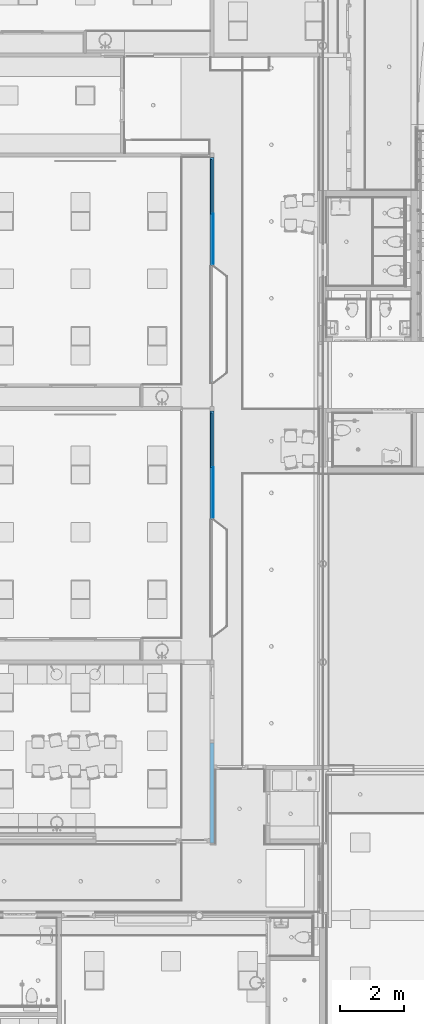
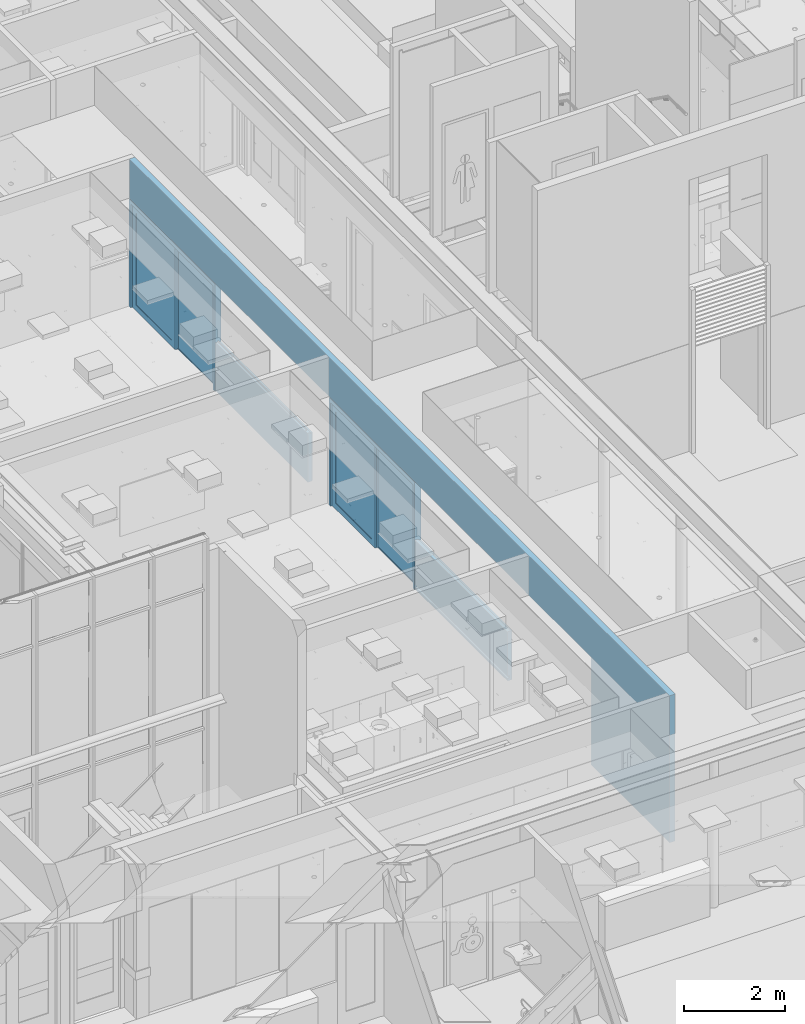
# One storey, part 47 of 347: 8 building element parts, 12 openings, 2 elements without a shape of their own, plus 1 element that does not belong to this part.
"""IFC2X3 building model written with IfcOpenShell, lengths in millimetres."""

from ifc_helpers import new_model, entity, si_unit, converted_unit, derived_unit, money_unit, direction, frame, origin_with_axes, place, context, subcontext, project, spatial, open_shell, faceted_brep, surface_model, source, transform, mapped, material, type_object, element, fill, aggregate, save


model = new_model("IFC2X3")

# Units and contexts
model_context = context("Model", 3, precision=0.01, world=origin_with_axes(), true_north=direction((0.0, 1.0)))
plan_context = context("Plan", 3, precision=0.01, world=origin_with_axes(), true_north=direction((0.0, 1.0)))
body_context = subcontext(model_context, "Body", "Model", "MODEL_VIEW")
ifc_project = project(units=[si_unit("LENGTHUNIT", "METRE", prefix="MILLI"), si_unit("AREAUNIT", "SQUARE_METRE"), si_unit("VOLUMEUNIT", "CUBIC_METRE"), converted_unit("PLANEANGLEUNIT", "DEGREE", entity("IfcPlaneAngleMeasure", 0.0174532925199), si_unit("PLANEANGLEUNIT", "RADIAN"), dimensions=[0, 0, 0, 0, 0, 0, 0]), money_unit("EUR"), converted_unit("TIMEUNIT", "Year", entity("IfcTimeMeasure", 31556926.0), si_unit("TIMEUNIT", "SECOND"), dimensions=[0, 0, 1, 0, 0, 0, 0]), si_unit("MASSUNIT", "GRAM", prefix="KILO"), si_unit("THERMODYNAMICTEMPERATUREUNIT", "DEGREE_CELSIUS"), si_unit("LUMINOUSINTENSITYUNIT", "LUMEN"), si_unit("ENERGYUNIT", "JOULE", prefix="MEGA"), derived_unit("THERMALCONDUCTANCEUNIT", [(si_unit("POWERUNIT", "WATT"), 1), (si_unit("LENGTHUNIT", "METRE"), -1), (si_unit("THERMODYNAMICTEMPERATUREUNIT", "KELVIN"), -1)]), derived_unit("SPECIFICHEATCAPACITYUNIT", [(si_unit("ENERGYUNIT", "JOULE"), 1), (si_unit("MASSUNIT", "GRAM", prefix="KILO"), -1), (si_unit("THERMODYNAMICTEMPERATUREUNIT", "KELVIN"), -1)]), derived_unit("MASSDENSITYUNIT", [(si_unit("MASSUNIT", "GRAM", prefix="KILO"), 1), (si_unit("VOLUMEUNIT", "CUBIC_METRE"), -1)])], contexts=[model_context, plan_context])

# Site, building, storey
site_placement = place(None, origin_with_axes())
site = spatial("IfcSite", under=ifc_project, at=site_placement, Name="Site", CompositionType="ELEMENT")
building_placement = place(site_placement, origin_with_axes())
building = spatial("IfcBuilding", under=site, at=building_placement, Name="Naam gebouw", CompositionType="ELEMENT")
storey_placement = place(building_placement, origin_with_axes())
storey = spatial("IfcBuildingStorey", under=building, at=storey_placement, Name="begane grond", CompositionType="ELEMENT", Elevation=0.0)

# Wall, openings, doors, building element parts
ifc_material_1 = material(Name="ALG - LICHTE SCHEIDINGSWAND")
wall_type = type_object("IfcWallType", Name="ALG LSW 125 125", PredefinedType="NOTDEFINED")
wall_placement = place(storey_placement, frame((32075.0, 14400.0, 0.0), z_axis=(0.0, 0.0, 1.0), x_axis=(0.0, 1.0, 0.0)))
wall = element("IfcWall", 1, at=wall_placement, inside=storey, type_object=wall_type, material=ifc_material_1, Name="22_GF 125 ECO DGS/2.75.2A", context=body_context, shape_type="Brep", body=[
    faceted_brep([(10105.5, -88.9482869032, 1178.0), (10077.7299648, -125.0, 1178.0), (10077.7299648, -125.0, 0.0), (10105.5, -88.9482869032, 0.0), (6443.5, -88.9506197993, 1178.0), (6471.27110157, -125.0, 1178.0), (10105.5, -72.5, 1178.0), (6465.77078348, -72.1991566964, 1178.0), (6465.95055533, -72.4815328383, 1178.0), (6465.5, -72.4815328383, 1178.0), (6465.5, -72.1991343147, 1178.0), (6443.5, -72.1973158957, 1178.0), (6471.27110157, -125.0, 0.0), (6455.5, -104.527695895, 0.0), (6455.5, -11.9999999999, 0.0), (10105.5, -11.9999999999, 0.0), (6465.5, -71.7738242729, 0.0), (6465.5, -72.4815328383, 0.0), (6465.95055533, -72.4815328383, 0.0), (10105.5, 0.0, 1175.0), (10105.5, 0.0, 1200.0), (10105.5, -72.5, 1200.0), (10105.5, -11.9999999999, 60.0), (10105.5, -52.5, 60.0), (10105.5, -52.5, 120.0), (10105.5, -11.9999999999, 120.0), (10105.5, -11.9999999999, 1175.0), (6443.5, -88.9506197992, 1175.0), (6455.5, -104.527695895, 1175.0), (6443.5, -72.1973158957, 1200.0), (6465.5, -71.7738242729, 1178.0), (6443.5, 0.0, 1200.0), (6443.5, 0.0, 1175.0), (6455.5, -11.9999999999, 1175.0), (6455.5, -11.9999999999, 120.0), (6455.5, -52.5, 120.0), (6455.5, -52.5, 60.0), (6455.5, -11.9999999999, 60.0)], [[[0, 1, 2, 3]], [[4, 5, 1, 0, 6, 7, 8, 9, 10, 11]], [[2, 1, 5, 12]], [[12, 13, 14, 15, 3, 2], [16, 17, 18]], [[19, 20, 21, 6, 0, 3, 15, 22, 23, 24, 25, 26]], [[27, 28, 13, 12, 5, 4]], [[11, 10, 7, 6, 21, 29]], [[30, 16, 18, 8, 7]], [[9, 8, 18, 17]], [[17, 16, 30, 10, 9]], [[4, 11, 29, 31, 32, 27]], [[33, 34, 35, 36, 37, 14, 13, 28]], [[15, 14, 37, 22]], [[19, 32, 31, 20]], [[20, 31, 29, 21]], [[22, 37, 36, 23]], [[23, 36, 35, 24]], [[24, 35, 34, 25]], [[25, 34, 33, 26]], [[28, 27, 32, 19, 26, 33]], [[7, 10, 30]]]),
    faceted_brep([(18002.7299648, -125.0, 0.0), (18030.5, -88.9482869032, 0.0), (18030.5, -88.9482869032, 1178.0), (18002.7299648, -125.0, 1178.0), (14396.2711016, -125.0, 0.0), (14380.5, -104.527695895, 0.0), (14380.5, -11.9999999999, 0.0), (18030.5, -11.9999999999, 0.0), (14390.9505553, -72.4815328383, 0.0), (14390.5, -71.773824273, 0.0), (14390.5, -72.4815328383, 0.0), (18030.5, -11.9999999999, 1175.0), (18030.5, -52.5, 1175.0), (18030.5, -52.5, 1200.0), (18030.5, -72.5, 1200.0), (18030.5, -72.5, 1178.0), (14368.5, -72.5, 1178.0), (14368.5, -88.9506197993, 1178.0), (14396.2711016, -125.0, 1178.0), (14368.5, -88.9506197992, 1175.0), (14380.5, -104.527695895, 1175.0), (14380.5, -11.9999999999, 1175.0), (14470.5, -11.9999999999, 1175.0), (14390.9505553, -72.4815328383, 1178.0), (14390.5, -71.773824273, 1178.0), (14390.5, -72.4815328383, 1178.0), (14470.5, -52.5, 1175.0), (14470.5, -52.5, 1200.0), (14470.5, 0.0, 1200.0), (14368.5, 0.0, 1200.0), (14368.5, -72.5, 1200.0), (14368.5, 0.0, 1175.0), (14470.5, 0.0, 1175.0)], [[[0, 1, 2, 3]], [[1, 0, 4, 5, 6, 7], [8, 9, 10]], [[7, 11, 12, 13, 14, 15, 2, 1]], [[15, 16, 17, 18, 3, 2]], [[3, 18, 4, 0]], [[5, 4, 18, 17, 19, 20]], [[6, 5, 20, 21]], [[11, 7, 6, 21, 22]], [[8, 23, 24, 9]], [[9, 24, 25, 10]], [[10, 25, 23, 8]], [[26, 12, 11, 22]], [[27, 13, 12, 26]], [[13, 27, 28, 29, 30, 14]], [[16, 15, 14, 30]], [[30, 29, 31, 19, 17, 16]], [[31, 32, 22, 21, 20, 19]], [[25, 24, 23]], [[22, 32, 28, 27, 26]], [[29, 28, 32, 31]]]),
    faceted_brep([(0.0, -125.0, 0.0), (3125.0, -125.0, 0.0), (3125.0, -125.0, 2600.0), (5712.5, -125.0, 2600.0), (5712.5, -125.0, 2612.0), (21437.5, -125.0, 2612.0), (21437.5, -125.0, 3560.0), (0.0, -125.0, 3560.0), (0.0, 0.0, 0.0), (3125.0, 0.0, 0.0), (3125.0, 0.0, 2600.0), (5712.5, 0.0, 2600.0), (5712.5, 0.0, 2612.0), (21437.5, 0.0, 2612.0), (21437.5, 0.0, 3560.0), (0.0, 0.0, 3560.0)], [[[0, 1, 2, 3, 4, 5, 6, 7]], [[8, 9, 1, 0]], [[10, 2, 1, 9]], [[3, 2, 10, 11]], [[3, 11, 12, 4]], [[12, 13, 5, 4]], [[6, 5, 13, 14]], [[7, 6, 14, 15]], [[8, 0, 7, 15]], [[11, 10, 9, 8, 15, 14, 13, 12]]]),
])
opening_1_placement = place(wall_placement, frame((21500.0, 0.0, 0.0), z_axis=(0.0, 0.0, 1.0), x_axis=(1.0, 0.0, 0.0)))
element("IfcOpeningElement", 2, at=opening_1_placement, cuts=wall, Name="32_-", context=body_context, shape_type="Brep", body=[
    faceted_brep([(-69.5, -132.0, 0.0), (-69.5, -132.0, 2600.0), (-69.5, 7.00000000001, 2600.0), (-69.5, 7.00000000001, 0.0), (69.5, -132.0, 0.0), (69.5, -132.0, 2600.0)], [[[0, 1, 2, 3]], [[1, 0, 4, 5]], [[1, 5, 2]], [[5, 4, 3, 2]], [[0, 3, 4]]]),
])
opening_2_placement = place(wall_placement, frame((17115.0, 0.0, 1200.0), z_axis=(0.0, 0.0, 1.0), x_axis=(1.0, 0.0, 0.0)))
element("IfcOpeningElement", 3, at=opening_2_placement, cuts=wall, Name="31_11.01", context=body_context, shape_type="Brep", body=[
    faceted_brep([(915.5, -72.5, 1400.0), (915.5, -72.5, 0.0), (915.5, 125.0, 0.0), (915.5, 125.0, 1400.0), (-915.5, -72.5, 1400.0), (-915.5, -72.5, 0.0), (-915.5, 125.0, 0.0), (-915.5, 125.0, 1400.0)], [[[0, 1, 2, 3]], [[0, 4, 5, 1]], [[1, 5, 6, 2]], [[3, 2, 6, 7]], [[4, 0, 3, 7]], [[5, 4, 7, 6]]]),
    faceted_brep([(915.5, -72.5, 0.0), (915.5, -72.5, 1400.0), (915.5, -250.0, 1400.0), (915.5, -250.0, 0.0), (-915.5, -72.5, 0.0), (-915.5, -72.5, 1400.0), (-915.5, -250.0, 1400.0), (-915.5, -250.0, 0.0)], [[[0, 1, 2, 3]], [[0, 4, 5, 1]], [[1, 5, 6, 2]], [[3, 2, 6, 7]], [[4, 0, 3, 7]], [[5, 4, 7, 6]]]),
])
opening_3_placement = place(wall_placement, frame((14006.5, 0.0, 0.0), z_axis=(0.0, 0.0, 1.0), x_axis=(1.0, 0.0, 0.0)))
element("IfcOpeningElement", 4, at=opening_3_placement, cuts=wall, Name="32_10.01", context=body_context, shape_type="Brep", body=[
    faceted_brep([(362.0, -72.5, 2600.0), (362.0, -72.5, 0.0), (362.0, 125.0, 0.0), (362.0, 125.0, 2600.0), (-362.0, -72.5, 2600.0), (-362.0, -72.5, 0.0), (-362.0, 125.0, 0.0), (-362.0, 125.0, 2600.0)], [[[0, 1, 2, 3]], [[0, 4, 5, 1]], [[1, 5, 6, 2]], [[3, 2, 6, 7]], [[4, 0, 3, 7]], [[5, 4, 7, 6]]]),
    faceted_brep([(362.0, -72.5, 0.0), (362.0, -72.5, 2600.0), (362.0, -250.0, 2600.0), (362.0, -250.0, 0.0), (-362.0, -72.5, 0.0), (-362.0, -72.5, 2600.0), (-362.0, -250.0, 2600.0), (-362.0, -250.0, 0.0)], [[[0, 1, 2, 3]], [[0, 4, 5, 1]], [[1, 5, 6, 2]], [[3, 2, 6, 7]], [[4, 0, 3, 7]], [[5, 4, 7, 6]]]),
])
opening_4_placement = place(wall_placement, frame((13575.0, 0.0, 0.0), z_axis=(0.0, 0.0, 1.0), x_axis=(1.0, 0.0, 0.0)))
element("IfcOpeningElement", 5, at=opening_4_placement, cuts=wall, Name="32_-", context=body_context, shape_type="Brep", body=[
    faceted_brep([(69.5, -132.0, 2600.0), (69.5, -132.0, 0.0), (69.5, 132.0, 0.0), (69.5, 132.0, 2600.0), (-69.5, -132.0, 2600.0), (-69.5, -132.0, 0.0), (-69.5, 132.0, 0.0), (-69.5, 132.0, 2600.0)], [[[0, 1, 2, 3]], [[0, 4, 5, 1]], [[1, 5, 6, 2]], [[3, 2, 6, 7]], [[4, 0, 3, 7]], [[5, 4, 7, 6]]]),
])
opening_5_placement = place(wall_placement, frame((6081.5, 0.0, 0.0), z_axis=(0.0, 0.0, 1.0), x_axis=(1.0, 0.0, 0.0)))
element("IfcOpeningElement", 6, at=opening_5_placement, cuts=wall, Name="32_10.01", context=body_context, shape_type="Brep", body=[
    faceted_brep([(362.0, -72.5, 2600.0), (362.0, -72.5, 0.0), (362.0, 125.0, 0.0), (362.0, 125.0, 2600.0), (-362.0, -72.5, 2600.0), (-362.0, -72.5, 0.0), (-362.0, 125.0, 0.0), (-362.0, 125.0, 2600.0)], [[[0, 1, 2, 3]], [[0, 4, 5, 1]], [[1, 5, 6, 2]], [[3, 2, 6, 7]], [[4, 0, 3, 7]], [[5, 4, 7, 6]]]),
    faceted_brep([(362.0, -72.5, 0.0), (362.0, -72.5, 2600.0), (362.0, -250.0, 2600.0), (362.0, -250.0, 0.0), (-362.0, -72.5, 0.0), (-362.0, -72.5, 2600.0), (-362.0, -250.0, 2600.0), (-362.0, -250.0, 0.0)], [[[0, 1, 2, 3]], [[0, 4, 5, 1]], [[1, 5, 6, 2]], [[3, 2, 6, 7]], [[4, 0, 3, 7]], [[5, 4, 7, 6]]]),
])
opening_6_placement = place(wall_placement, frame((9190.0, 0.0, 1200.0), z_axis=(0.0, 0.0, 1.0), x_axis=(1.0, 0.0, 0.0)))
element("IfcOpeningElement", 7, at=opening_6_placement, cuts=wall, Name="31_11.01", context=body_context, shape_type="Brep", body=[
    faceted_brep([(915.5, -72.5, 1400.0), (915.5, -72.5, 0.0), (915.5, 125.0, 0.0), (915.5, 125.0, 1400.0), (-915.5, -72.5, 1400.0), (-915.5, -72.5, 0.0), (-915.5, 125.0, 0.0), (-915.5, 125.0, 1400.0)], [[[0, 1, 2, 3]], [[0, 4, 5, 1]], [[1, 5, 6, 2]], [[3, 2, 6, 7]], [[4, 0, 3, 7]], [[5, 4, 7, 6]]]),
    faceted_brep([(915.5, -72.5, 0.0), (915.5, -72.5, 1400.0), (915.5, -250.0, 1400.0), (915.5, -250.0, 0.0), (-915.5, -72.5, 0.0), (-915.5, -72.5, 1400.0), (-915.5, -250.0, 1400.0), (-915.5, -250.0, 0.0)], [[[0, 1, 2, 3]], [[0, 4, 5, 1]], [[1, 5, 6, 2]], [[3, 2, 6, 7]], [[4, 0, 3, 7]], [[5, 4, 7, 6]]]),
])
opening_7_placement = place(wall_placement, frame((5650.0, 0.0, 0.0), z_axis=(0.0, 0.0, 1.0), x_axis=(1.0, 0.0, 0.0)))
element("IfcOpeningElement", 8, at=opening_7_placement, cuts=wall, Name="32_-", context=body_context, shape_type="Brep", body=[
    faceted_brep([(69.5, -132.0, 2600.0), (69.5, -132.0, 0.0), (69.5, 132.0, 0.0), (69.5, 132.0, 2600.0), (-69.5, -132.0, 2600.0), (-69.5, -132.0, 0.0), (-69.5, 132.0, 0.0), (-69.5, 132.0, 2600.0)], [[[0, 1, 2, 3]], [[0, 4, 5, 1]], [[1, 5, 6, 2]], [[3, 2, 6, 7]], [[4, 0, 3, 7]], [[5, 4, 7, 6]]]),
])
opening_8_placement = place(wall_placement, frame((15284.0, 0.0, 1200.0), z_axis=(0.0, 0.0, 1.0), x_axis=(1.0, 0.0, 0.0)))
element("IfcOpeningElement", 9, at=opening_8_placement, cuts=wall, Name="31_11.01", context=body_context, shape_type="Brep", body=[
    faceted_brep([(915.5, -72.5, 1400.0), (915.5, -72.5, 0.0), (915.5, 125.0, 0.0), (915.5, 125.0, 1400.0), (-915.5, -72.5, 1400.0), (-915.5, -72.5, 0.0), (-915.5, 125.0, 0.0), (-915.5, 125.0, 1400.0)], [[[0, 1, 2, 3]], [[0, 4, 5, 1]], [[1, 5, 6, 2]], [[3, 2, 6, 7]], [[4, 0, 3, 7]], [[5, 4, 7, 6]]]),
    faceted_brep([(915.5, -72.5, 0.0), (915.5, -72.5, 1400.0), (915.5, -250.0, 1400.0), (915.5, -250.0, 0.0), (-915.5, -72.5, 0.0), (-915.5, -72.5, 1400.0), (-915.5, -250.0, 1400.0), (-915.5, -250.0, 0.0)], [[[0, 1, 2, 3]], [[0, 4, 5, 1]], [[1, 5, 6, 2]], [[3, 2, 6, 7]], [[4, 0, 3, 7]], [[5, 4, 7, 6]]]),
])
opening_9_placement = place(wall_placement, frame((7359.0, 0.0, 1200.0), z_axis=(0.0, 0.0, 1.0), x_axis=(1.0, 0.0, 0.0)))
element("IfcOpeningElement", 10, at=opening_9_placement, cuts=wall, Name="31_11.01", context=body_context, shape_type="Brep", body=[
    faceted_brep([(915.5, -72.5, 1400.0), (915.5, -72.5, 0.0), (915.5, 125.0, 0.0), (915.5, 125.0, 1400.0), (-915.5, -72.5, 1400.0), (-915.5, -72.5, 0.0), (-915.5, 125.0, 0.0), (-915.5, 125.0, 1400.0)], [[[0, 1, 2, 3]], [[0, 4, 5, 1]], [[1, 5, 6, 2]], [[3, 2, 6, 7]], [[4, 0, 3, 7]], [[5, 4, 7, 6]]]),
    faceted_brep([(915.5, -72.5, 0.0), (915.5, -72.5, 1400.0), (915.5, -250.0, 1400.0), (915.5, -250.0, 0.0), (-915.5, -72.5, 0.0), (-915.5, -72.5, 1400.0), (-915.5, -250.0, 1400.0), (-915.5, -250.0, 0.0)], [[[0, 1, 2, 3]], [[0, 4, 5, 1]], [[1, 5, 6, 2]], [[3, 2, 6, 7]], [[4, 0, 3, 7]], [[5, 4, 7, 6]]]),
])
opening_10_placement = place(wall_placement, frame((19730.5, 0.0, 0.0), z_axis=(0.0, 0.0, 1.0), x_axis=(1.0, 0.0, 0.0)))
opening_10 = element("IfcOpeningElement", 11, at=opening_10_placement, cuts=wall, Name="32_06.01", context=body_context, shape_type="Brep", body=[
    faceted_brep([(1700.0, -132.0, 2599.99996583), (1700.0, -132.0, 0.0), (1700.0, 132.0, 0.0), (1700.0, 132.0, 2599.99996583), (-1700.0, -132.0, 2599.99996583), (-1700.0, -132.0, 0.0), (-1700.0, 132.0, 0.0), (-1700.0, 132.0, 2599.99996583)], [[[0, 1, 2, 3]], [[0, 4, 5, 1]], [[1, 5, 6, 2]], [[3, 2, 6, 7]], [[4, 0, 3, 7]], [[5, 4, 7, 6]]]),
])
opening_11_placement = place(wall_placement, frame((11805.5, 0.0, 0.0), z_axis=(0.0, 0.0, 1.0), x_axis=(1.0, 0.0, 0.0)))
opening_11 = element("IfcOpeningElement", 12, at=opening_11_placement, cuts=wall, Name="32_06.01", context=body_context, shape_type="Brep", body=[
    faceted_brep([(1700.0, -132.0, 2599.99996583), (1700.0, -132.0, 0.0), (1700.0, 132.0, 0.0), (1700.0, 132.0, 2599.99996583), (-1700.0, -132.0, 2599.99996583), (-1700.0, -132.0, 0.0), (-1700.0, 132.0, 0.0), (-1700.0, 132.0, 2599.99996583)], [[[0, 1, 2, 3]], [[0, 4, 5, 1]], [[1, 5, 6, 2]], [[3, 2, 6, 7]], [[4, 0, 3, 7]], [[5, 4, 7, 6]]]),
])
opening_12_placement = place(wall_placement, frame((4352.75, 0.0, 0.0), z_axis=(0.0, 0.0, 1.0), x_axis=(1.0, 0.0, 0.0)))
element("IfcOpeningElement", 13, at=opening_12_placement, cuts=wall, Name="32_04.06", context=body_context, shape_type="Brep", body=[
    faceted_brep([(1227.75, -125.0, 2600.0), (1227.75, -125.0, 0.0), (1227.75, 257.0, 0.0), (1227.75, 257.0, 2600.0), (-1227.75, -125.0, 2600.0), (-1227.75, -125.0, 0.0), (-1227.75, 257.0, 0.0), (-1227.75, 257.0, 2600.0)], [[[0, 1, 2, 3]], [[0, 4, 5, 1]], [[1, 5, 6, 2]], [[3, 2, 6, 7]], [[4, 0, 3, 7]], [[5, 4, 7, 6]]]),
])
door_style = type_object("IfcDoorStyle", Name="32 schuifdeurkozijn 3400 KRAR", ConstructionType="NOTDEFINED", OperationType="NOTDEFINED", ParameterTakesPrecedence=False, Sizeable=False)
door_1_placement = place(opening_10_placement, frame((-1700.0, 0.0, 0.0), z_axis=(0.0, 0.0, 1.0), x_axis=(1.0, 0.0, 0.0)))
door_1 = element("IfcDoor", 14, at=door_1_placement, inside=storey, type_object=door_style, Name="32_06.01", ObjectType="DOOR", OverallHeight=2600.0, OverallWidth=3400.0)
fill(opening_10, door_1)
ifc_material_2 = material(Name="32 Hout binnenkozijn oregon pine")
shared_shape_1 = source(origin_with_axes(), body_context, "Body", "Brep", [
    faceted_brep([(-1610.00000001, 16.9999998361, 24.9999996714), (-1610.00000001, 16.9999777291, 2509.99999544), (-1610.00000001, 3.28331931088e-07, 2510.00000171), (-1610.00000001, 0.0, 0.0), (-1610.00000001, 16.9999998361, 0.0), (-1610.00000001, 41.9999998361, 24.9999996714), (-1610.00000001, 41.9999830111, 2509.99999711), (-1626.99999985, 16.9999777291, 2509.99999544), (-1699.99999792, 16.9999783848, 2509.99999501), (-1699.99999792, 3.05199976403e-07, 2510.00000171), (-1700.0, 0.0, 0.0), (-1610.00000001, 41.9999998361, 0.0), (-1626.99999989, 41.9999998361, 0.0), (-1626.99999985, 16.9999998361, 0.0), (-1700.0, 139.0, 0.0), (-1626.99999985, 139.0, 0.0), (-1626.99999989, 66.9999998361, 0.0), (-1610.00000001, 66.9999998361, 0.0), (-1627.00000001, 16.9999998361, 24.9999996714), (-1627.00000001, 41.9999998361, 24.9999996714), (-1610.00000001, 66.9999790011, 2509.99998473), (-1626.99999985, 41.9999830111, 2509.99999711), (-1699.99999792, 16.999981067, 2526.99999676), (-1626.99999985, 16.999981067, 2526.99999676), (-1699.99999792, 66.9999819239, 2526.99998283), (-1699.99999792, 66.9999922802, 2568.99998246), (-1699.99999792, 111.999991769, 2568.99997245), (-1699.99999792, 111.999977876, 2509.99997367), (-1699.99999792, 139.0, 2509.99996703), (-1626.99999985, 138.999999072, 2509.99996703), (-1626.99999985, 66.9999826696, 2526.99998283), (-1626.99999989, 66.9999787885, 2509.99998473), (-1626.99999985, 111.99997795, 2509.99997357), (-1626.99999985, 111.999991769, 2568.99997245), (-1626.99999985, 66.9999925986, 2568.99998246)], [[[0, 1, 2, 3, 4]], [[1, 0, 5, 6]], [[1, 7, 8, 9, 2]], [[10, 3, 2, 9]], [[11, 12, 13, 4, 3, 10, 14, 15, 16, 17]], [[18, 0, 4, 13]], [[0, 18, 19, 5]], [[6, 5, 11, 17, 20]], [[7, 1, 6, 21]], [[22, 8, 7, 23]], [[10, 9, 8, 22, 24, 25, 26, 27, 28, 14]], [[5, 19, 12, 11]], [[19, 18, 13, 12]], [[15, 14, 28, 29]], [[30, 31, 16, 15, 29, 32, 33, 34]], [[17, 16, 31, 20]], [[21, 6, 20, 31]], [[7, 21, 31, 30, 23]], [[30, 24, 22, 23]], [[25, 24, 30, 34]], [[33, 26, 25, 34]], [[32, 27, 26, 33]], [[28, 27, 32, 29]]]),
    faceted_brep([(-52.5000001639, 42.0000001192, 2509.99999087), (-52.5000001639, 42.0000001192, 2526.99999065), (-52.5000001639, 17.0000002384, 2526.99999674), (-52.5000001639, 17.0000002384, 2509.99999544), (-52.5000001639, 67.0, 2509.99998473), (-52.5000001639, 67.0, 2526.9999845), (-169.5, 42.0000000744, 2526.99999065), (-169.5, 17.000000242, 2526.99999674), (-169.5, 17.000000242, 2509.99999544), (-1626.99999985, 41.9999995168, 2509.99999087), (-1627.00000046, 17.0000002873, 2509.99999544), (-1626.99999985, 66.9999998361, 2509.99998473), (1.00008890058e-09, 66.9999787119, 2509.99998435), (1.00008890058e-09, 66.9999928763, 2568.99998296), (-169.5, 66.9999935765, 2568.99998296), (-169.5, 66.9999999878, 2526.9999845), (-169.5, 66.9999989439, 2599.99996651), (-169.5, 0.0, 2599.99996775), (-169.5, 0.0, 2509.99996688), (-1699.99999792, 16.9999783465, 2509.99999501), (-1699.99999792, 3.05199976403e-07, 2510.00000122), (-1626.99999985, 41.9999995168, 2526.99999065), (-1627.00000046, 17.0000002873, 2526.99999674), (-1626.99999985, 66.9999998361, 2526.9999845), (-1626.99999985, 112.0, 2509.99997364), (1.00008890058e-09, 111.999979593, 2509.99997139), (1.00008890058e-09, 138.999978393, 2509.99996707), (1.00008890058e-09, 139.0, 2599.99996765), (1.00008890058e-09, 66.9999989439, 2599.99996651), (-1699.99999792, 139.0, 2599.99996583), (-1699.99999792, 112.0, 2599.99997247), (-1699.99999792, 3.05199976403e-07, 2600.00000192), (-1699.99999792, 16.9999804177, 2526.99999732), (-1699.99999792, 111.999992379, 2568.99997211), (-1699.99999792, 66.9999922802, 2568.99998246), (-1699.99999792, 66.9999819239, 2526.99998283), (-1626.99999985, 66.9999995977, 2568.99998296), (-1626.99999985, 112.0, 2568.99997128), (-1699.99999792, 139.0, 2509.99996703), (-1699.99999792, 111.999977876, 2509.99997367)], [[[0, 1, 2, 3]], [[1, 0, 4, 5]], [[1, 6, 7, 2]], [[2, 7, 8, 3]], [[9, 0, 3, 8, 10]], [[0, 9, 11, 4]], [[5, 4, 12, 13, 14, 15]], [[6, 1, 5, 15]], [[6, 15, 14, 16, 17, 18, 8, 7]], [[19, 10, 8, 18, 20]], [[21, 9, 10, 22]], [[9, 21, 23, 11]], [[4, 11, 24, 25, 12]], [[12, 25, 26, 27, 28, 13]], [[28, 16, 14, 13]], [[28, 27, 29, 30, 31, 17, 16]], [[18, 17, 31, 20]], [[32, 22, 10, 19]], [[19, 20, 31, 30, 33, 34, 35, 32]], [[23, 21, 22, 32, 35]], [[11, 23, 36, 37, 24]], [[38, 26, 25, 24, 39]], [[27, 26, 38, 29]], [[29, 38, 39, 33, 30]], [[34, 33, 37, 36]], [[35, 34, 36, 23]], [[33, 39, 24, 37]]]),
    faceted_brep([(1634.9999999, 66.9999998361, 2509.99996703), (1634.9999999, 66.9999998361, 2568.99996489), (1699.99999792, 66.9999996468, 2568.99996565), (1699.99999792, 66.9999995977, 2509.99996688), (1634.9999999, 112.000000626, 2568.99996822), (1634.9999999, 112.000000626, 2509.99996703), (1699.99999792, 111.999999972, 2568.99996773), (1699.99999792, 112.0, 2599.99996584), (1699.99999792, 3.05199976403e-07, 2599.99996775), (1699.99999792, 3.05199976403e-07, 2509.99996688), (69.5000004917, 67.0000004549, 2509.99996509), (-169.5, 0.0, 2509.99996688), (-169.5, 17.0000002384, 2509.99999544), (69.5000004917, 17.0000002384, 2509.99999544), (0.0, 67.0000004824, 2509.99996501), (0.0, 111.99999856, 2509.99996501), (1699.99999792, 111.99999992, 2509.99996692), (1699.99999792, 139.0, 2599.99996575), (1699.99999792, 139.0, 2509.99996692), (0.0, 139.0, 2599.9999643), (0.0, 67.0000004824, 2599.99996862), (-169.5, 67.0000004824, 2599.99996862), (-169.5, 0.0, 2599.99996775), (-169.5, 67.0, 2526.99998283), (-169.5, 16.9999797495, 2526.99999727), (-169.5, 67.0000004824, 2568.99996565), (69.5000004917, 16.9999797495, 2526.99999727), (69.5000004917, 66.9999998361, 2526.99998283), (0.0, 67.0000004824, 2526.99998283), (0.0, 67.0000004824, 2568.99996489), (0.0, 112.000000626, 2568.99996822), (0.0, 139.0, 2509.99996501)], [[[0, 1, 2, 3]], [[4, 1, 0, 5]], [[1, 4, 6, 2]], [[2, 6, 7, 8, 9, 3]], [[10, 0, 3, 9, 11, 12, 13]], [[0, 10, 14, 15, 5]], [[4, 5, 16, 6]], [[17, 7, 6, 16, 18]], [[19, 20, 21, 22, 8, 7, 17]], [[8, 22, 11, 9]], [[23, 24, 12, 11, 22, 21, 25]], [[26, 13, 12, 24]], [[27, 10, 13, 26]], [[10, 27, 28, 14]], [[28, 29, 30, 15, 14]], [[5, 15, 31, 18, 16]], [[31, 19, 17, 18]], [[30, 29, 20, 19, 31, 15]], [[29, 28, 23, 25, 21, 20]], [[28, 27, 26, 24, 23]]]),
    faceted_brep([(1634.9999999, 66.9999995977, 2568.99996565), (1699.99999792, 66.9999995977, 2568.99996565), (1699.99999792, 112.000000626, 2568.99996708), (1634.9999999, 112.000000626, 2568.99996708), (1699.99999792, 66.9999995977, 2509.99996688), (1634.9999999, 66.9999995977, 2509.99996688), (1699.99999792, 3.05199976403e-07, 2509.99996688), (1700.0, 0.0, 2.02504679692e-10), (1700.0, 139.0, 2.02504679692e-10), (1699.99999792, 139.0, 2509.99996692), (1699.99999792, 111.99999992, 2509.99996692), (1634.9999999, 111.999999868, 2509.99996684), (1634.9999999, 139.0, 2509.99996684), (1634.9999999, 139.0, 2.02504679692e-10), (1634.9999999, 66.9999998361, 2.02504679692e-10), (1610.00000001, 2.90507284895e-07, 2509.99996688), (1610.00000001, 66.9999995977, 2509.99996688), (1610.00000001, 0.0, 2.02504679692e-10), (1610.00000001, 66.9999998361, 2.02504679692e-10)], [[[0, 1, 2, 3]], [[4, 1, 0, 5]], [[4, 6, 7, 8, 9, 10, 2, 1]], [[3, 2, 10, 11]], [[5, 0, 3, 11, 12, 13, 14]], [[15, 6, 4, 5, 16]], [[6, 15, 17, 7]], [[18, 14, 13, 8, 7, 17]], [[12, 9, 8, 13]], [[10, 9, 12, 11]], [[16, 5, 14, 18]], [[15, 16, 18, 17]]]),
    faceted_brep([(-52.5000001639, 67.0, 2509.99998473), (-52.5000001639, 42.0000001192, 2509.99999087), (-52.5000001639, 17.0000002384, 2509.99999544), (-52.5000001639, 16.999981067, 2526.99999676), (-52.5000001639, 66.9999987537, 2526.99998283), (-69.5, 41.9999998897, 2509.99999087), (-69.5, 66.9999997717, 2509.99998473), (-69.5, 17.0000000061, 2509.99999544), (69.5000009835, 16.9999783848, 2509.99999501), (69.5000009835, 16.999981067, 2526.99999676), (69.5000009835, 67.0, 2526.99998283), (69.5, 67.0, -1.98951966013e-10), (-69.5, 67.0, -1.98951966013e-10), (-69.5, 41.9999998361, -1.98951966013e-10), (-69.5, 17.0000002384, -1.98951966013e-10), (-69.5, 7.24273953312e-07, 2510.00000171), (69.5000009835, 7.59999979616e-07, 2510.00000171), (69.5, 4.02299943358e-07, -1.98951966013e-10), (-69.5, 4.02299943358e-07, -1.98951966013e-10), (-52.5000001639, 17.0000002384, -1.98951966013e-10), (-52.5, 41.9999998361, -1.98951966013e-10)], [[[0, 1, 2, 3, 4]], [[5, 1, 0, 6]], [[1, 5, 7, 2]], [[3, 2, 8, 9]], [[10, 4, 3, 9]], [[0, 4, 10, 11, 12, 6]], [[13, 5, 6, 12]], [[5, 13, 14, 7]], [[8, 2, 7, 15, 16]], [[10, 9, 8, 16, 17, 11]], [[12, 11, 17, 18, 14, 19, 20, 13]], [[13, 20, 19, 14]], [[15, 7, 14, 18]], [[18, 17, 16, 15]]]),
])
building_element_part_1_placement = place(door_1_placement, origin_with_axes())
building_element_part_1 = element("IfcBuildingElementPart", 15, at=building_element_part_1_placement, material=ifc_material_2, Name="32 Hout binnenkozijn oregon pine", context=body_context, shape_type="MappedRepresentation", body=[
    mapped(shared_shape_1, transform((1700.0, -132.0, 0.0))),
])
door_2_placement = place(opening_11_placement, frame((-1700.0, 0.0, 0.0), z_axis=(0.0, 0.0, 1.0), x_axis=(1.0, 0.0, 0.0)))
door_2 = element("IfcDoor", 16, at=door_2_placement, inside=storey, type_object=door_style, Name="32_06.01", ObjectType="DOOR", OverallHeight=2600.0, OverallWidth=3400.0)
fill(opening_11, door_2)
building_element_part_2_placement = place(door_2_placement, origin_with_axes())
building_element_part_2 = element("IfcBuildingElementPart", 17, at=building_element_part_2_placement, material=ifc_material_2, Name="32 Hout binnenkozijn oregon pine", context=body_context, shape_type="MappedRepresentation", body=[
    mapped(shared_shape_1, transform((1700.0, -132.0, 0.0))),
])
ifc_material_3 = material(Name="Glas")
shared_shape_2 = source(origin_with_axes(), body_context, "Body", "Brep", [
    faceted_brep([(-69.5, 22.9999989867, 24.9999996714), (-69.5, 22.9999989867, 2509.99999434), (-1610.00000001, 23.0000002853, 2509.99999468), (-1610.00000001, 23.0000002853, 24.9999996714), (-69.5, 35.9999998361, 2509.99999197), (-69.5, 35.9999998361, 24.9999996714), (-1610.00000001, 35.9999998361, 2509.99999207), (-1610.00000001, 35.9999998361, 24.9999996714)], [[[0, 1, 2, 3]], [[4, 1, 0, 5]], [[1, 4, 6, 2]], [[2, 6, 7, 3]], [[5, 0, 3, 7]], [[4, 5, 7, 6]]]),
])
building_element_part_3_placement = place(door_1_placement, origin_with_axes())
building_element_part_3 = element("IfcBuildingElementPart", 18, at=building_element_part_3_placement, material=ifc_material_3, Name="Glas", context=body_context, shape_type="MappedRepresentation", body=[
    mapped(shared_shape_2, transform((1700.0, -132.0, 0.0))),
])
building_element_part_4_placement = place(door_2_placement, origin_with_axes())
building_element_part_4 = element("IfcBuildingElementPart", 19, at=building_element_part_4_placement, material=ifc_material_3, Name="Glas", context=body_context, shape_type="MappedRepresentation", body=[
    mapped(shared_shape_2, transform((1700.0, -132.0, 0.0))),
])
ifc_material_4 = material(Name="Membraan - rubber")
shared_shape_3 = source(origin_with_axes(), body_context, "Body", "Brep", [
    faceted_brep([(-1627.00000001, 16.9999998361, 0.0), (-1627.00000001, 41.9999998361, 0.0), (-69.5, 41.9999998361, 0.0), (-69.5, 16.9999998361, 0.0), (-1627.00000001, 16.9999998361, 24.9999996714), (-1627.00000001, 41.9999998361, 24.9999996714), (-69.5, 41.9999998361, 24.9999996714), (-69.5, 16.9999998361, 24.9999996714)], [[[0, 1, 2, 3]], [[4, 5, 1, 0]], [[2, 1, 5, 6]], [[3, 2, 6, 7]], [[4, 0, 3, 7]], [[7, 6, 5, 4]]]),
])
building_element_part_5_placement = place(door_1_placement, origin_with_axes())
building_element_part_5 = element("IfcBuildingElementPart", 20, at=building_element_part_5_placement, material=ifc_material_4, Name="Membraan - rubber", context=body_context, shape_type="MappedRepresentation", body=[
    mapped(shared_shape_3, transform((1700.0, -132.0, 0.0))),
])
building_element_part_6_placement = place(door_2_placement, origin_with_axes())
building_element_part_6 = element("IfcBuildingElementPart", 21, at=building_element_part_6_placement, material=ifc_material_4, Name="Membraan - rubber", context=body_context, shape_type="MappedRepresentation", body=[
    mapped(shared_shape_3, transform((1700.0, -132.0, 0.0))),
])
shared_shape_4 = source(origin_with_axes(), body_context, "Body", "SurfaceModel", [
    faceted_brep([(1627.0, 108.999999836, 150.000032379), (1627.0, 68.9999998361, 150.000032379), (1488.0, 68.9999998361, 150.000032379), (1488.0, 108.999999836, 150.000032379), (1627.0, 108.999999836, 2371.00000305), (1627.0, 68.9999998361, 2371.00000305), (1488.0, 68.9999998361, 2371.00000305), (1488.0, 108.999999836, 2371.00000305)], [[[0, 1, 2, 3]], [[4, 5, 1, 0]], [[1, 5, 6, 2]], [[3, 2, 6, 7]], [[0, 3, 7, 4]], [[7, 6, 5, 4]]]),
    faceted_brep([(-69.5, 108.999999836, 150.000032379), (-69.5, 68.9999998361, 150.000032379), (-69.5, 68.9999998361, 2371.00000305), (-69.5, 108.999999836, 2371.00000305), (69.5, 108.999999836, 150.000032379), (69.5, 68.9999998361, 150.000032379), (69.5, 68.9999998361, 2371.00000305), (69.5, 108.999999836, 2371.00000305)], [[[0, 1, 2, 3]], [[4, 5, 1, 0]], [[1, 5, 6, 2]], [[3, 2, 6, 7]], [[0, 3, 7, 4]], [[7, 6, 5, 4]]]),
    faceted_brep([(1627.0, 108.999999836, 11.0000342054), (1627.0, 68.9999998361, 11.0000342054), (-69.5, 68.9999998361, 11.0000342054), (-69.5, 108.999999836, 11.0000342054), (1627.0, 108.999999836, 150.000032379), (1627.0, 68.9999998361, 150.000032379), (1488.0, 68.9999998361, 150.000032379), (69.5, 68.9999998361, 150.000032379), (-69.5, 68.9999998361, 150.000032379), (-69.5, 108.999999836, 150.000032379), (69.5, 108.999999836, 150.000032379), (1488.0, 108.999999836, 150.000032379)], [[[0, 1, 2, 3]], [[4, 5, 1, 0]], [[1, 5, 6, 7, 8, 2]], [[3, 2, 8, 9]], [[0, 3, 9, 10, 11, 4]], [[11, 6, 5, 4]], [[10, 7, 6, 11]], [[9, 8, 7, 10]]]),
    faceted_brep([(1627.0, 108.999999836, 2510.00000123), (1627.0, 68.9999998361, 2510.00000123), (1627.0, 68.9999998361, 2371.00000305), (1627.0, 108.999999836, 2371.00000305), (-69.5, 108.999999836, 2510.00000123), (-69.5, 68.9999998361, 2510.00000123), (-69.5, 68.9999998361, 2371.00000305), (69.5, 68.9999998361, 2371.00000305), (1488.0, 68.9999998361, 2371.00000305), (1488.0, 108.999999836, 2371.00000305), (69.5, 108.999999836, 2371.00000305), (-69.5, 108.999999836, 2371.00000305)], [[[0, 1, 2, 3]], [[4, 5, 1, 0]], [[1, 5, 6, 7, 8, 2]], [[3, 2, 8, 9]], [[0, 3, 9, 10, 11, 4]], [[11, 6, 5, 4]], [[10, 7, 6, 11]], [[9, 8, 7, 10]]]),
    surface_model("IfcShellBasedSurfaceModel", [(1488.0, 95.4999998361, 150.000032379), (69.5, 95.4999998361, 150.000032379), (69.5, 95.4999998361, 2371.00000305), (1488.0, 95.4999998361, 2371.00000305)], [open_shell([[[0, 1, 2, 3]]])]),
    surface_model("IfcShellBasedSurfaceModel", [(1488.0, 82.4999998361, 150.000032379), (1488.0, 82.4999998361, 2371.00000305), (69.5, 82.4999998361, 2371.00000305), (69.5, 82.4999998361, 150.000032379)], [open_shell([[[0, 1, 2, 3]]])]),
])
building_element_part_7_placement = place(door_1_placement, origin_with_axes())
building_element_part_7 = element("IfcBuildingElementPart", 22, at=building_element_part_7_placement, context=body_context, shape_type="MappedRepresentation", body=[
    mapped(shared_shape_4, transform((1700.0, -132.0, 0.0))),
])
aggregate(door_1, [building_element_part_1, building_element_part_3, building_element_part_5, building_element_part_7])
building_element_part_8_placement = place(door_2_placement, origin_with_axes())
building_element_part_8 = element("IfcBuildingElementPart", 23, at=building_element_part_8_placement, context=body_context, shape_type="MappedRepresentation", body=[
    mapped(shared_shape_4, transform((1700.0, -132.0, 0.0))),
])
aggregate(door_2, [building_element_part_2, building_element_part_4, building_element_part_6, building_element_part_8])

save(model, "model.ifc")
